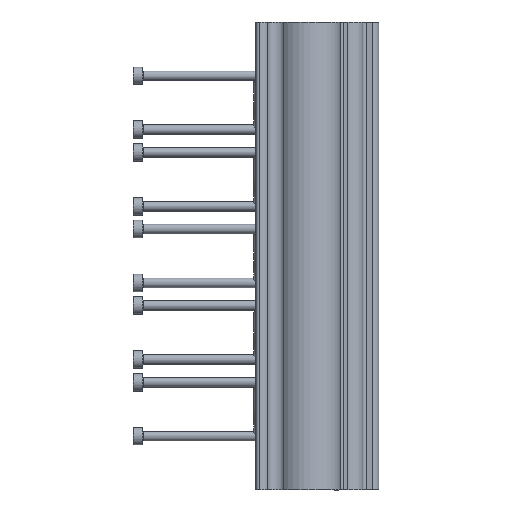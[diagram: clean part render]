
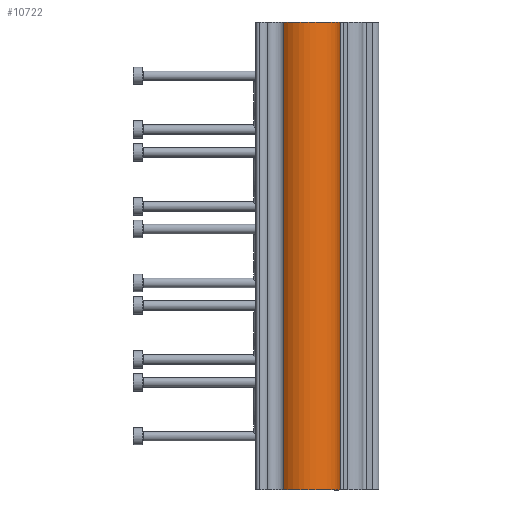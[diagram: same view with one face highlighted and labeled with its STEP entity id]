
A CAD part, left-side view. The second image highlights one B-rep face of the part: STEP entity #10722.
In plain terms, the highlighted cylindrical face has radius 10.5 mm (diameter 21 mm), a partial arc.
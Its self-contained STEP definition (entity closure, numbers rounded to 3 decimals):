
#886 = ORIENTED_EDGE ( 'NONE', *, *, #7568, .F. ) ;
#887 = ORIENTED_EDGE ( 'NONE', *, *, #7569, .T. ) ;
#889 = ORIENTED_EDGE ( 'NONE', *, *, #7571, .T. ) ;
#890 = ORIENTED_EDGE ( 'NONE', *, *, #7563, .F. ) ;
#2567 = EDGE_LOOP ( 'NONE', ( #886, #887, #889, #890 ) ) ;
#2995 = VECTOR ( 'NONE', #13858, 1000. ) ;
#2996 = CIRCLE ( 'NONE', #6952, 10.5 ) ;
#3092 = CIRCLE ( 'NONE', #6954, 10.5 ) ;
#3093 = LINE ( 'NONE', #13867, #2995 ) ;
#3105 = VECTOR ( 'NONE', #13898, 1000. ) ;
#3106 = LINE ( 'NONE', #13902, #3105 ) ;
#4056 = CARTESIAN_POINT ( 'NONE',  ( -25.776, -10.471, 0. ) ) ;
#4066 = CARTESIAN_POINT ( 'NONE',  ( -32.529, 7.319, 0. ) ) ;
#4100 = CARTESIAN_POINT ( 'NONE',  ( -32.529, 7.319, -146.6 ) ) ;
#4120 = CARTESIAN_POINT ( 'NONE',  ( -25.776, -10.471, -146.6 ) ) ;
#5397 = DIRECTION ( 'NONE',  ( 1., 0., 0. ) ) ;
#5414 = CARTESIAN_POINT ( 'NONE',  ( -25., 0., -175.043 ) ) ;
#5430 = DIRECTION ( 'NONE',  ( 0., 0., 1. ) ) ;
#5600 = CYLINDRICAL_SURFACE ( 'NONE', #6546, 10.5 ) ;
#5610 = FACE_OUTER_BOUND ( 'NONE', #2567, .T. ) ;
#6546 = AXIS2_PLACEMENT_3D ( 'NONE', #5414, #5430, #5397 ) ;
#6952 = AXIS2_PLACEMENT_3D ( 'NONE', #13702, #13701, #13700 ) ;
#6954 = AXIS2_PLACEMENT_3D ( 'NONE', #13843, #13842, #13831 ) ;
#7563 = EDGE_CURVE ( 'NONE', #11994, #11970, #3106, .T. ) ;
#7568 = EDGE_CURVE ( 'NONE', #11987, #11994, #3092, .T. ) ;
#7569 = EDGE_CURVE ( 'NONE', #11987, #11975, #3093, .T. ) ;
#7571 = EDGE_CURVE ( 'NONE', #11975, #11970, #2996, .T. ) ;
#10722 = ADVANCED_FACE ( 'NONE', ( #5610 ), #5600, .T. ) ;
#11970 = VERTEX_POINT ( 'NONE', #4066 ) ;
#11975 = VERTEX_POINT ( 'NONE', #4056 ) ;
#11987 = VERTEX_POINT ( 'NONE', #4120 ) ;
#11994 = VERTEX_POINT ( 'NONE', #4100 ) ;
#13700 = DIRECTION ( 'NONE',  ( 1., 0., 0. ) ) ;
#13701 = DIRECTION ( 'NONE',  ( 0., 0., -1. ) ) ;
#13702 = CARTESIAN_POINT ( 'NONE',  ( -25., 0., 0. ) ) ;
#13831 = DIRECTION ( 'NONE',  ( -1., 0., 0. ) ) ;
#13842 = DIRECTION ( 'NONE',  ( 0., 0., -1. ) ) ;
#13843 = CARTESIAN_POINT ( 'NONE',  ( -25., 0., -146.6 ) ) ;
#13858 = DIRECTION ( 'NONE',  ( 0., 0., 1. ) ) ;
#13867 = CARTESIAN_POINT ( 'NONE',  ( -25.776, -10.471, -175.043 ) ) ;
#13898 = DIRECTION ( 'NONE',  ( 0., 0., 1. ) ) ;
#13902 = CARTESIAN_POINT ( 'NONE',  ( -32.529, 7.319, -162.079 ) ) ;
